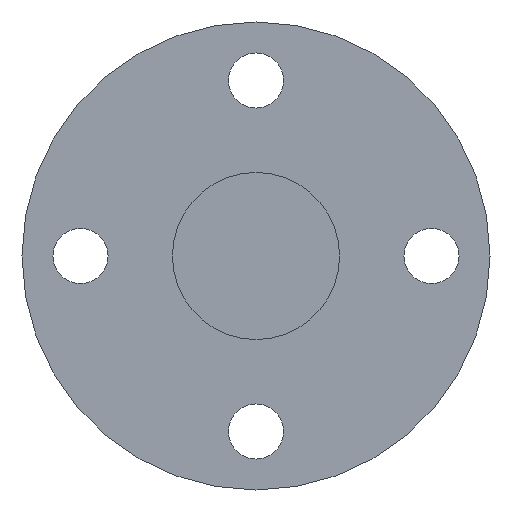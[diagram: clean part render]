
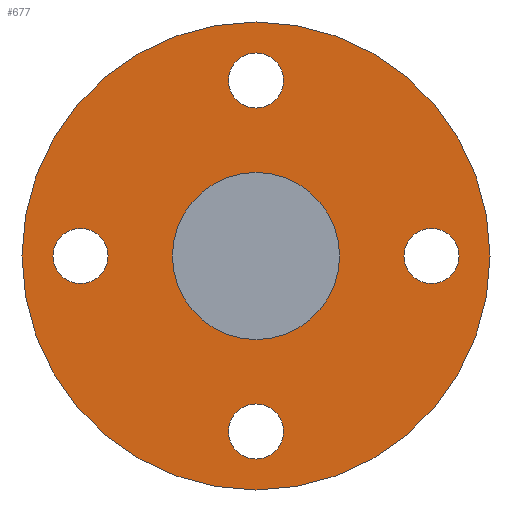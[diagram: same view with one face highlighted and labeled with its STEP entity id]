
A CAD part, left-side view. The second image highlights one B-rep face of the part: STEP entity #677.
In plain terms, the highlighted planar face has unit normal (-1, 0, 0).
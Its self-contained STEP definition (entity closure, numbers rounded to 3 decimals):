
#566=CARTESIAN_POINT('',(130.0,21.0,-3.3));
#567=VERTEX_POINT('',#566);
#568=CARTESIAN_POINT('',(130.0,21.0,0.));
#569=DIRECTION('',(1.0,0.0,0.0));
#570=DIRECTION('',(0.0,0.0,-1.0));
#571=AXIS2_PLACEMENT_3D('',#568,#569,#570);
#572=CIRCLE('',#571,3.3);
#573=EDGE_CURVE('',#567,#567,#572,.T.);
#586=CARTESIAN_POINT('',(130.0,-3.3,-21.0));
#587=VERTEX_POINT('',#586);
#588=CARTESIAN_POINT('',(130.0,0.,-21.0));
#589=DIRECTION('',(1.0,0.0,0.0));
#590=DIRECTION('',(0.0,-1.0,0.0));
#591=AXIS2_PLACEMENT_3D('',#588,#589,#590);
#592=CIRCLE('',#591,3.3);
#593=EDGE_CURVE('',#587,#587,#592,.T.);
#606=CARTESIAN_POINT('',(130.0,-21.0,3.3));
#607=VERTEX_POINT('',#606);
#608=CARTESIAN_POINT('',(130.0,-21.0,0.));
#609=DIRECTION('',(1.0,0.0,0.0));
#610=DIRECTION('',(0.0,0.0,1.0));
#611=AXIS2_PLACEMENT_3D('',#608,#609,#610);
#612=CIRCLE('',#611,3.3);
#613=EDGE_CURVE('',#607,#607,#612,.T.);
#626=CARTESIAN_POINT('',(130.0,3.3,21.0));
#627=VERTEX_POINT('',#626);
#628=CARTESIAN_POINT('',(130.0,0.0,21.0));
#629=DIRECTION('',(1.0,0.0,0.0));
#630=DIRECTION('',(0.0,1.0,0.0));
#631=AXIS2_PLACEMENT_3D('',#628,#629,#630);
#632=CIRCLE('',#631,3.3);
#633=EDGE_CURVE('',#627,#627,#632,.T.);
#638=CARTESIAN_POINT('',(130.0,0.0,19.));
#639=DIRECTION('',(-1.0,0.0,0.0));
#640=DIRECTION('',(0.0,0.0,1.0));
#641=AXIS2_PLACEMENT_3D('',#638,#639,#640);
#642=PLANE('',#641);
#643=CARTESIAN_POINT('',(130.0,0.0,28.));
#644=VERTEX_POINT('',#643);
#645=CARTESIAN_POINT('',(130.0,0.0,0.0));
#646=DIRECTION('',(-1.0,0.0,0.0));
#647=DIRECTION('',(0.0,0.0,1.0));
#648=AXIS2_PLACEMENT_3D('',#645,#646,#647);
#649=CIRCLE('',#648,28.);
#650=EDGE_CURVE('',#644,#644,#649,.T.);
#651=ORIENTED_EDGE('',*,*,#650,.T.);
#652=EDGE_LOOP('',(#651));
#653=FACE_OUTER_BOUND('',#652,.T.);
#654=ORIENTED_EDGE('',*,*,#573,.T.);
#655=EDGE_LOOP('',(#654));
#656=FACE_BOUND('',#655,.T.);
#657=ORIENTED_EDGE('',*,*,#593,.T.);
#658=EDGE_LOOP('',(#657));
#659=FACE_BOUND('',#658,.T.);
#660=ORIENTED_EDGE('',*,*,#613,.T.);
#661=EDGE_LOOP('',(#660));
#662=FACE_BOUND('',#661,.T.);
#663=ORIENTED_EDGE('',*,*,#633,.T.);
#664=EDGE_LOOP('',(#663));
#665=FACE_BOUND('',#664,.T.);
#666=CARTESIAN_POINT('',(130.0,0.0,10.));
#667=VERTEX_POINT('',#666);
#668=CARTESIAN_POINT('',(130.0,0.0,0.0));
#669=DIRECTION('',(-1.0,0.0,0.0));
#670=DIRECTION('',(0.0,0.0,1.0));
#671=AXIS2_PLACEMENT_3D('',#668,#669,#670);
#672=CIRCLE('',#671,10.);
#673=EDGE_CURVE('',#667,#667,#672,.T.);
#674=ORIENTED_EDGE('',*,*,#673,.F.);
#675=EDGE_LOOP('',(#674));
#676=FACE_BOUND('',#675,.T.);
#677=ADVANCED_FACE('',(#653,#656,#659,#662,#665,#676),#642,.T.);
